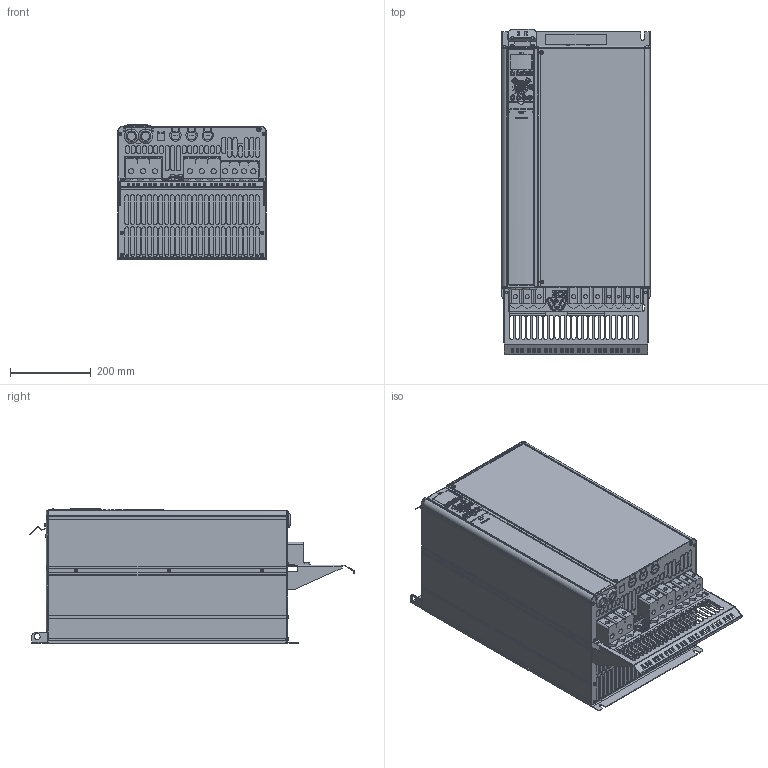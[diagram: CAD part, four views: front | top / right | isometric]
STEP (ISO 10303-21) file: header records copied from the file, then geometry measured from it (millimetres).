
FILE_DESCRIPTION((''),'2;1');
FILE_NAME('DANFOSS-FC300-C4-IP20-OPT-132','2007-07-10T',('janardhan.mankala'),('dan Drives A/S'),'PRO/ENGINEER BY PARAMETRIC TECHNOLOGY CORPORATION, 2006200','PRO/ENGINEER BY PARAMETRIC TECHNOLOGY CORPORATION, 2006200','');
FILE_SCHEMA(('CONFIG_CONTROL_DESIGN', 'GEOMETRIC_VALIDATION_PROPERTIES_MIM'));
Products named in the file (1): DANFOSS-FC300-C4-IP20-OPT-132
Bounding box: 370.9 x 805 x 334 mm (x, y, z)
Volume: 69641656.2 mm3; surface area: 1824230.3 mm2
Topology: 1 solids, 30 shells, 5381 faces, 14782 edges, 9566 vertices
Faces by surface type: plane 2631, cylinder 1642, bspline 576, extrusion 182, torus 140, cone 128, sphere 82
Entity records: 281277 total; most frequent: CARTESIAN_POINT 130889, ORIENTED_EDGE 29410, DIRECTION 24414, EDGE_CURVE 14705, VERTEX_POINT 9566, VECTOR 8544, LINE 8362, AXIS2_PLACEMENT_3D 7935
